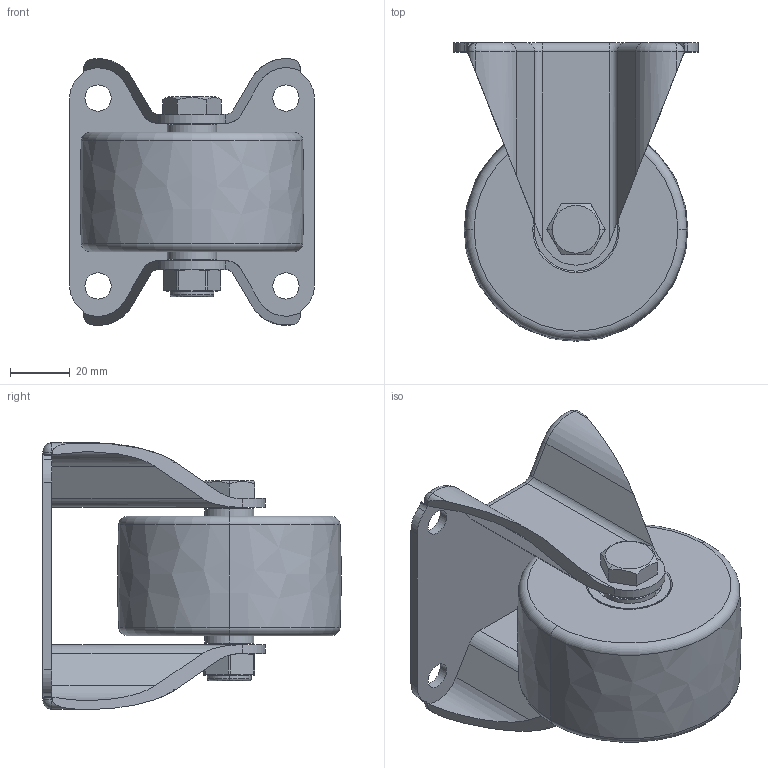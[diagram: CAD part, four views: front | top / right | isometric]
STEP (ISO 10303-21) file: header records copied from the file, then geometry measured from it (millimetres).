
FILE_DESCRIPTION((''),'2;1');
FILE_NAME('M433075-16_ASM','2019-10-24T',('lenovo'),(''),'PRO/ENGINEER BY PARAMETRIC TECHNOLOGY CORPORATION, 2010280','PRO/ENGINEER BY PARAMETRIC TECHNOLOGY CORPORATION, 2010280','');
FILE_SCHEMA(('CONFIG_CONTROL_DESIGN'));
Length unit declared in the file: millimetre
Products named in the file (9): M433075; M43075-916; 6001ZZ; 500-66; 640-54; M4375-16_ASM; M430-33; 640-34; M433075-16_ASM
Assembly tree (10 placements, depth 3):
  M433075-16_ASM
    M433075
    M4375-16_ASM
      M43075-916
      6001ZZ  x2
      500-66  x2
      640-54
    M430-33
    640-34
Bounding box: 82 x 99.96 x 89.5 mm (x, y, z)
Volume: 205832.3 mm3; surface area: 63467.9 mm2
Topology: 41 solids, 41 shells, 280 faces, 694 edges, 378 vertices
Faces by surface type: cylinder 106, sphere 64, plane 62, torus 30, cone 16, bspline 2
Entity records: 6771 total; most frequent: CARTESIAN_POINT 1471, DIRECTION 1176, ORIENTED_EDGE 984, AXIS2_PLACEMENT_3D 499, EDGE_CURVE 492, VERTEX_POINT 316, CIRCLE 252, EDGE_LOOP 250
